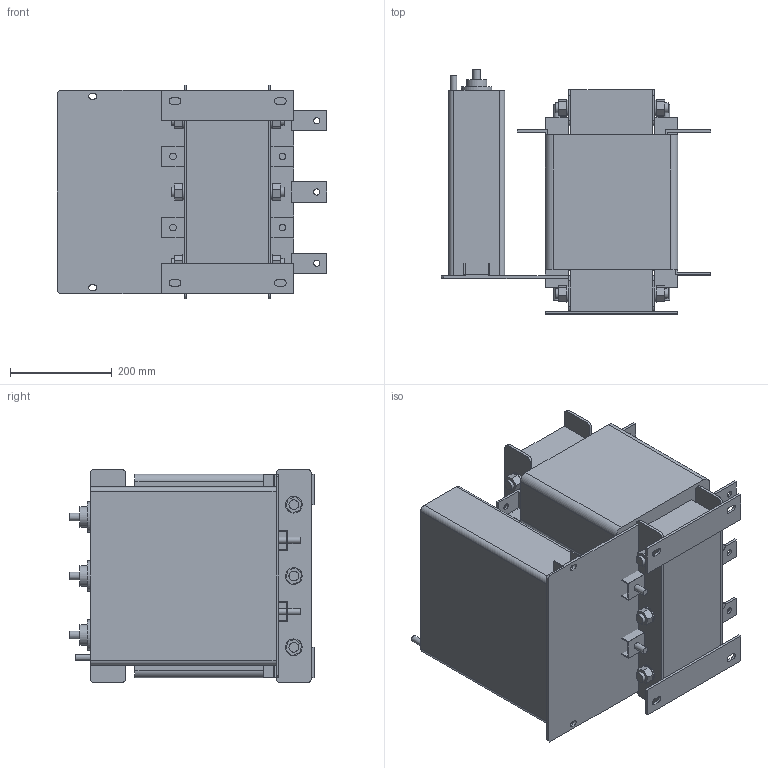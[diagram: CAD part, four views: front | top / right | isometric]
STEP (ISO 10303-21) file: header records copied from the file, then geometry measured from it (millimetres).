
FILE_DESCRIPTION(/* description */ (''),/* implementation_level */ '2;1');
FILE_NAME(/* name */ 'Sin-T6-350.stp',/* time_stamp */ '2025-03-05T10:32:38+04:00',/* author */ ('Лео'),/* organization */ (''),/* preprocessor_version */ 'ST-DEVELOPER v19.2',/* originating_system */ 'Autodesk Inventor 2024',/* authorisation */ '');
FILE_SCHEMA (('AUTOMOTIVE_DESIGN { 1 0 10303 214 3 1 1 }'));
Length unit declared in the file: millimetre
Products named in the file (1): Sin-T6-350
Bounding box: 530 x 480 x 420 mm (x, y, z)
Volume: 49852297 mm3; surface area: 2183179.3 mm2
Topology: 28 solids, 28 shells, 564 faces, 1239 edges, 772 vertices
Faces by surface type: plane 457, cylinder 107
Full cylindrical faces by diameter (mm): 12 x10, 13 x12, 15 x3, 19 x12, 32.562 x12, 40 x3, 60 x3
Entity records: 15289 total; most frequent: DIRECTION 2655, CARTESIAN_POINT 2576, ORIENTED_EDGE 2478, EDGE_CURVE 1239, LINE 953, VECTOR 953, AXIS2_PLACEMENT_3D 851, VERTEX_POINT 772
